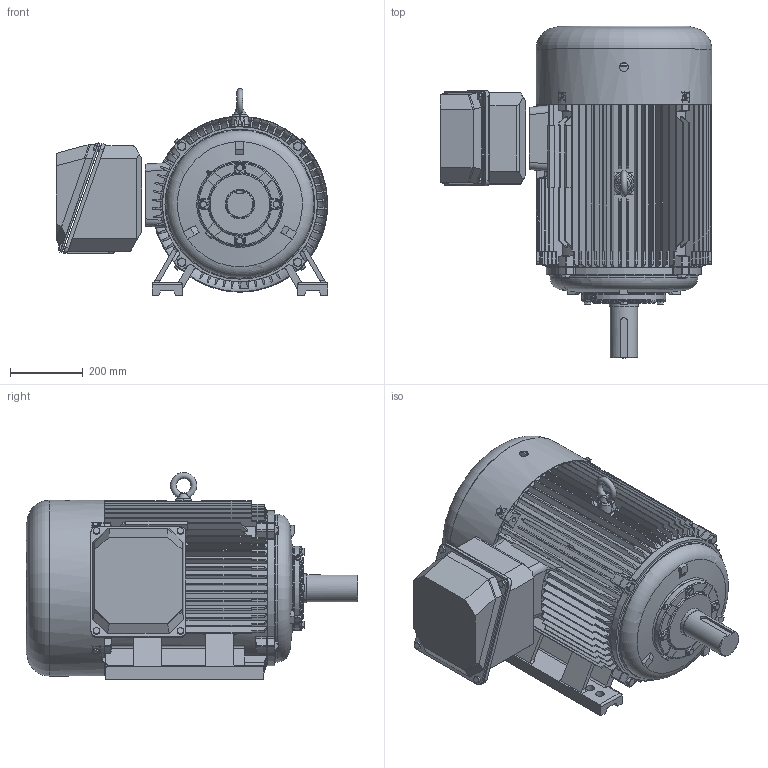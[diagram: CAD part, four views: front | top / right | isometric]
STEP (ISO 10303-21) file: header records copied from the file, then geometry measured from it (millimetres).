
FILE_DESCRIPTION(/* description */ ('Unknown'),/* implementation_level */ '2;1');
FILE_NAME(/* name */ '1-SMA-37906_외형도(400DIA)',/* time_stamp */ '2026-07-24T08:23:50+09:00',/* author */ ('Unknown'),/* organization */ ('Unknown'),/* preprocessor_version */ 'ST-DEVELOPER v16',/* originating_system */ 'DEX',/* authorisation */ $);
FILE_SCHEMA (('AP242_MANAGED_MODEL_BASED_3D_ENGINEERING_MIM_LF { 1 0 10303 442 1 1 4 }','AUTOMOTIVE_DESIGN {1 0 10303 214 3 1 1}'));
Products named in the file (22): 1-SMA-37906_寇屈档(400DI; 2-SMA-36198-1_FRAME(400DIA); 3-1-SMA-36199_擅粽塭鰍(395D; 3-2_SMA-34445_菊海绢傅目滚(郴)(3行b; 3-3_SMA-34444_擅漆橫葭醴幗(諼)(3; 4-1-SMA-34446_菴粽塭鰍(395D; 4-2_SMA-34448_第海绢傅目滚(郴)(3@; 4-3_SMA-34447_菴漆橫葭醴幗(諼)(3Pdi; 5-SMA-34349-3_SHAFT(400DIA); 6-SMA-34362A_FAN(395DIA); 7-SMA-37914_FAN COVER(395DIA); 8-SMA-37459M_T-BOX(鼻)(400~445DIA)e; 9-SMA-37458M_T-BOX(ж)(400~445DIA)X; ﾀｰｰ｢ｺｼﾆｮ M14x2.0xﾏx; 幫陝獐お M10x1.5x; ﾀｰｰ｢ｺｼﾆｮ M12x1.75xｮ; À°°¢ÇÃ·£Áö M8x1.25–; I獐お M20x2.5x302; 斜葬蝶 棲Ы PF 1; 6316ZZ; 6313ZZ
Assembly tree (41 placements, depth 2):
  1-SMA-37906_寇屈档(400DI
    2-SMA-36198-1_FRAME(400DIA)
    3-1-SMA-36199_擅粽塭鰍(395D
    3-2_SMA-34445_菊海绢傅目滚(郴)(3行b
    3-3_SMA-34444_擅漆橫葭醴幗(諼)(3
    4-1-SMA-34446_菴粽塭鰍(395D
    4-2_SMA-34448_第海绢傅目滚(郴)(3@
    4-3_SMA-34447_菴漆橫葭醴幗(諼)(3Pdi
    5-SMA-34349-3_SHAFT(400DIA)
    6-SMA-34362A_FAN(395DIA)
    7-SMA-37914_FAN COVER(395DIA)
    8-SMA-37459M_T-BOX(鼻)(400~445DIA)e
    9-SMA-37458M_T-BOX(ж)(400~445DIA)X
    ﾀｰｰ｢ｺｼﾆｮ M14x2.0xﾏx  x8
    幫陝獐お M10x1.5x  x8
    ﾀｰｰ｢ｺｼﾆｮ M12x1.75xｮ
    À°°¢ÇÃ·£Áö M8x1.25–  x4
    幫陝獐お M10x1.5x  x4
    I獐お M20x2.5x302
    斜葬蝶 棲Ы PF 1
    6316ZZ
    6313ZZ
Bounding box: 744.72 x 910 x 566.95 mm (x, y, z)
Volume: 30496094.4 mm3; surface area: 6453718.6 mm2
Topology: 64 solids, 64 shells, 5490 faces, 15303 edges, 10020 vertices
Faces by surface type: plane 3786, cylinder 762, cone 467, torus 277, bspline 174, sphere 24
Full cylindrical faces by diameter (mm): 4.134 x2, 6.647 x12, 8 x6, 8.376 x12, 10 x27, 10.106 x1, 11.445 x2, 11.835 x8, 12 x30, 13.157 x2, 14 x16, 15 x4, 16 x4, 17.294 x2, 17.5 x4, 20 x2, 24 x7, 56.656 x1, 62 x1, 64.8 x1, 65 x2, 66 x3, 72 x2, 75 x2, 76 x3, 79.8 x1, 80 x3, 81 x3, 82 x2, 85 x1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
Entity records: 216480 total; most frequent: CARTESIAN_POINT 70104, ORIENTED_EDGE 28184, DIRECTION 24271, EDGE_CURVE 14092, LINE 10353, VECTOR 10353, VERTEX_POINT 9425, FACE_BOUND 7135
